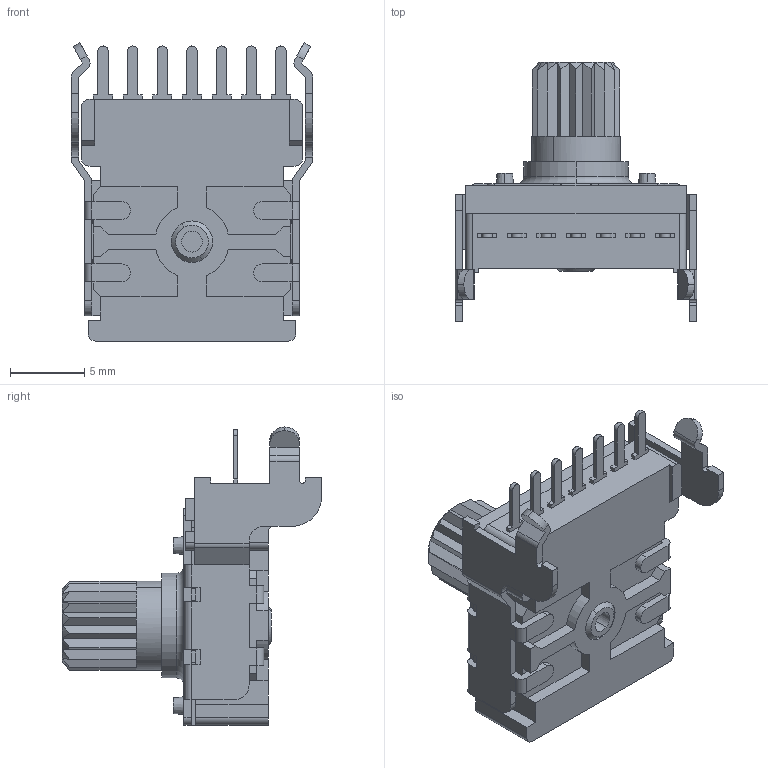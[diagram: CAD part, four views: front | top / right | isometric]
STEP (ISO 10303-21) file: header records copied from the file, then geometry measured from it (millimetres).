
FILE_DESCRIPTION (( 'STEP AP203' ), '1' );
FILE_NAME ('P140KV-Y15.STEP', '2026-09-15T15:01:42', ( '' ), ( '' ), 'SwSTEP 2.0', 'SolidWorks 2026', '' );
FILE_SCHEMA (( 'CONFIG_CONTROL_DESIGN' ));
Length unit declared in the file: millimetre
Products named in the file (7): Housing; H-terminal; KV bracket; KV_housing; Y15; P140KV-Y15; spring_plate
Assembly tree (12 placements, depth 3):
  P140KV-Y15
    KV_housing
      Housing
      H-terminal  x7
    Y15
    spring_plate
    KV bracket
Bounding box: 16.3 x 17.5 x 20.1 mm (x, y, z)
Volume: 1197.9 mm3; surface area: 2595.7 mm2
Topology: 11 solids, 11 shells, 589 faces, 1563 edges, 998 vertices
Faces by surface type: plane 411, cylinder 140, cone 24, bspline 8, torus 6
Entity records: 17422 total; most frequent: CARTESIAN_POINT 3144, ORIENTED_EDGE 2838, DIRECTION 2735, EDGE_CURVE 1419, LINE 1029, VECTOR 1029, VERTEX_POINT 902, AXIS2_PLACEMENT_3D 853
